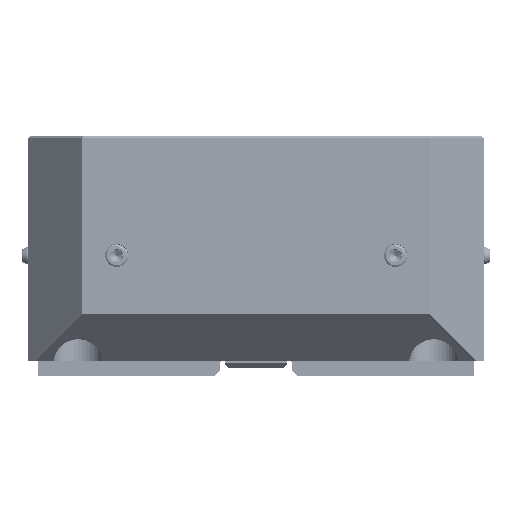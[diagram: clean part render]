
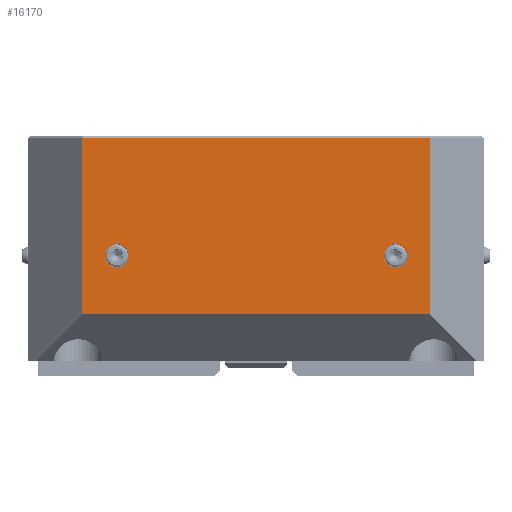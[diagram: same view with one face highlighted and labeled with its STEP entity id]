
A CAD part, left-side view. The second image highlights one B-rep face of the part: STEP entity #16170.
In plain terms, the highlighted planar face has unit normal (-1, 0, 0).
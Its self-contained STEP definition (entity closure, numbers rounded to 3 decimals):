
#478 = CARTESIAN_POINT ( 'NONE',  ( -80., -49., 41.227 ) ) ;
#1039 = FACE_BOUND ( 'NONE', #30768, .T. ) ;
#1213 = DIRECTION ( 'NONE',  ( 0., 0., 1. ) ) ;
#1489 = CARTESIAN_POINT ( 'NONE',  ( -80., 80., 79.127 ) ) ;
#1501 = VECTOR ( 'NONE', #15882, 1000. ) ;
#2122 = LINE ( 'NONE', #22457, #37261 ) ;
#3065 = LINE ( 'NONE', #10573, #44990 ) ;
#5137 = CARTESIAN_POINT ( 'NONE',  ( -80., -61., 16.5 ) ) ;
#5410 = CIRCLE ( 'NONE', #44128, 4.1 ) ;
#10573 = CARTESIAN_POINT ( 'NONE',  ( -80., 80., 16.5 ) ) ;
#10872 = VERTEX_POINT ( 'NONE', #25930 ) ;
#11312 = ORIENTED_EDGE ( 'NONE', *, *, #32401, .T. ) ;
#11624 = ORIENTED_EDGE ( 'NONE', *, *, #30900, .F. ) ;
#11721 = DIRECTION ( 'NONE',  ( -1., 0., 0. ) ) ;
#11783 = LINE ( 'NONE', #43611, #1501 ) ;
#12894 = CARTESIAN_POINT ( 'NONE',  ( -80., 49., 41.227 ) ) ;
#15190 = PLANE ( 'NONE',  #28818 ) ;
#15417 = DIRECTION ( 'NONE',  ( 1., 0., 0. ) ) ;
#15542 = VERTEX_POINT ( 'NONE', #24995 ) ;
#15594 = DIRECTION ( 'NONE',  ( 0., 0., 1. ) ) ;
#15882 = DIRECTION ( 'NONE',  ( 0., 0., -1. ) ) ;
#16170 = ADVANCED_FACE ( 'NONE', ( #30831, #1039, #29373 ), #15190, .F. ) ;
#16677 = EDGE_CURVE ( 'NONE', #26626, #26626, #29549, .T. ) ;
#19332 = AXIS2_PLACEMENT_3D ( 'NONE', #36241, #11721, #1213 ) ;
#20842 = ORIENTED_EDGE ( 'NONE', *, *, #39007, .T. ) ;
#21074 = EDGE_LOOP ( 'NONE', ( #22238 ) ) ;
#22238 = ORIENTED_EDGE ( 'NONE', *, *, #16677, .F. ) ;
#22457 = CARTESIAN_POINT ( 'NONE',  ( -80., -61., 79.127 ) ) ;
#24422 = EDGE_CURVE ( 'NONE', #39525, #15542, #11783, .T. ) ;
#24995 = CARTESIAN_POINT ( 'NONE',  ( -80., 61., 16.5 ) ) ;
#25930 = CARTESIAN_POINT ( 'NONE',  ( -80., -61., 78.619 ) ) ;
#26478 = EDGE_LOOP ( 'NONE', ( #20842, #32897, #39062, #11312 ) ) ;
#26626 = VERTEX_POINT ( 'NONE', #12894 ) ;
#26692 = VECTOR ( 'NONE', #34673, 1000. ) ;
#26753 = DIRECTION ( 'NONE',  ( -1., 0., 0. ) ) ;
#28818 = AXIS2_PLACEMENT_3D ( 'NONE', #1489, #15417, #43368 ) ;
#29373 = FACE_OUTER_BOUND ( 'NONE', #26478, .T. ) ;
#29549 = CIRCLE ( 'NONE', #19332, 4.1 ) ;
#30768 = EDGE_LOOP ( 'NONE', ( #11624 ) ) ;
#30831 = FACE_BOUND ( 'NONE', #21074, .T. ) ;
#30900 = EDGE_CURVE ( 'NONE', #38462, #38462, #5410, .T. ) ;
#30947 = DIRECTION ( 'NONE',  ( 0., -1., 0. ) ) ;
#31904 = CARTESIAN_POINT ( 'NONE',  ( -80., 61., 78.619 ) ) ;
#32401 = EDGE_CURVE ( 'NONE', #15542, #43948, #3065, .T. ) ;
#32865 = EDGE_CURVE ( 'NONE', #10872, #39525, #40720, .T. ) ;
#32897 = ORIENTED_EDGE ( 'NONE', *, *, #32865, .T. ) ;
#34673 = DIRECTION ( 'NONE',  ( 0., 1., 0. ) ) ;
#34764 = CARTESIAN_POINT ( 'NONE',  ( -80., -49., 37.127 ) ) ;
#36241 = CARTESIAN_POINT ( 'NONE',  ( -80., 49., 37.127 ) ) ;
#37261 = VECTOR ( 'NONE', #15594, 1000. ) ;
#38462 = VERTEX_POINT ( 'NONE', #478 ) ;
#39007 = EDGE_CURVE ( 'NONE', #43948, #10872, #2122, .T. ) ;
#39062 = ORIENTED_EDGE ( 'NONE', *, *, #24422, .T. ) ;
#39525 = VERTEX_POINT ( 'NONE', #31904 ) ;
#40283 = CARTESIAN_POINT ( 'NONE',  ( -80., 61., 78.619 ) ) ;
#40720 = LINE ( 'NONE', #40283, #26692 ) ;
#40757 = DIRECTION ( 'NONE',  ( 0., 0., 1. ) ) ;
#43368 = DIRECTION ( 'NONE',  ( 0., 0., -1. ) ) ;
#43611 = CARTESIAN_POINT ( 'NONE',  ( -80., 61., 79.127 ) ) ;
#43948 = VERTEX_POINT ( 'NONE', #5137 ) ;
#44128 = AXIS2_PLACEMENT_3D ( 'NONE', #34764, #26753, #40757 ) ;
#44990 = VECTOR ( 'NONE', #30947, 1000. ) ;
